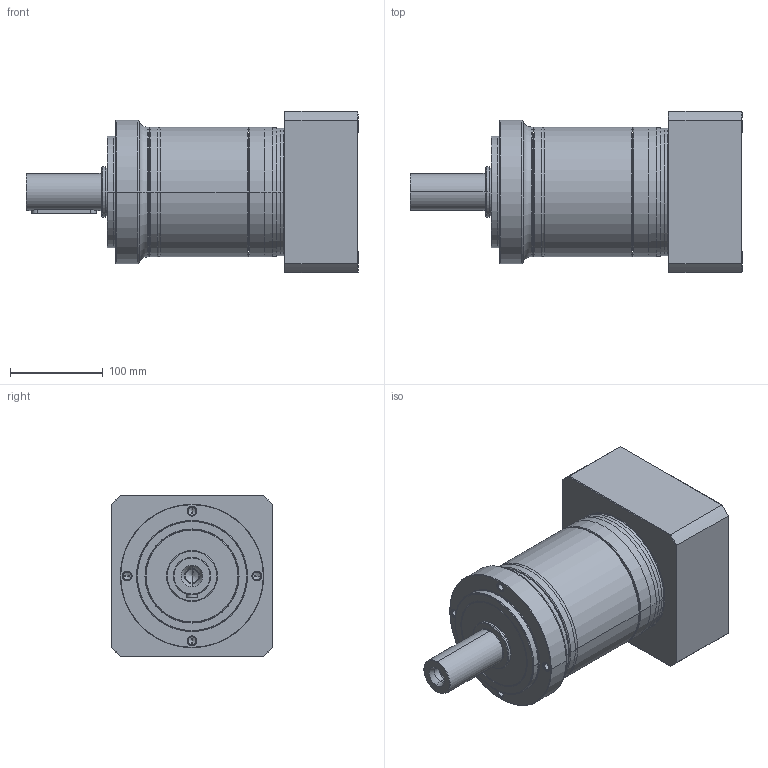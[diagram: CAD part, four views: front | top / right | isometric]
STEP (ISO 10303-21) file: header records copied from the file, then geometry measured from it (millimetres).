
FILE_DESCRIPTION((''),'2;1');
FILE_NAME('PE2-155_2ST_38-P0411900101_ASM','2016-05-03T',('d00435'),(''),'PRO/ENGINEER BY PARAMETRIC TECHNOLOGY CORPORATION, 2008410','PRO/ENGINEER BY PARAMETRIC TECHNOLOGY CORPORATION, 2008410','');
FILE_SCHEMA(('CONFIG_CONTROL_DESIGN'));
Length unit declared in the file: millimetre
Products named in the file (9): P1323510001; P0251500001; P1324500501; P0350501001; P0941505001; P0503900010; P0411900101; P1702600001; PE2-155_2ST_38-P0411900101_ASM
Assembly tree (8 placements, depth 2):
  PE2-155_2ST_38-P0411900101_ASM
    P1323510001
    P0251500001
    P1324500501
    P0350501001
    P0941505001
    P0503900010
    P0411900101
    P1702600001
Bounding box: 358.5 x 174 x 174 mm (x, y, z)
Volume: 4050144.2 mm3; surface area: 471896.4 mm2
Topology: 8 solids, 22 shells, 538 faces, 1199 edges, 706 vertices
Faces by surface type: cylinder 172, cone 148, torus 104, plane 96, bspline 18
Entity records: 19659 total; most frequent: CARTESIAN_POINT 7389, DIRECTION 2831, ORIENTED_EDGE 2270, AXIS2_PLACEMENT_3D 1224, EDGE_CURVE 1163, VERTEX_POINT 706, CIRCLE 677, EDGE_LOOP 619
